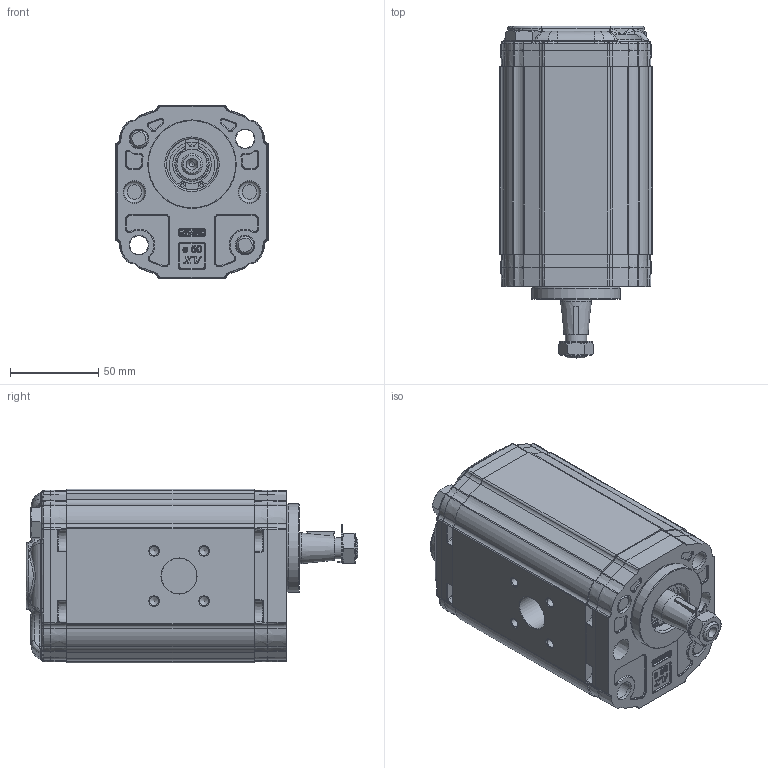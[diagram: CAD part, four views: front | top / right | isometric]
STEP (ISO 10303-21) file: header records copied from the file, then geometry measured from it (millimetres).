
FILE_DESCRIPTION(/* description */ ('Unknown'),/* implementation_level */ '2;1');
FILE_NAME(/* name */ 'X2R6307FSSF',/* time_stamp */ '2026-06-03T18:21:20+02:00',/* author */ ('Unknown'),/* organization */ ('Unknown'),/* preprocessor_version */ 'ST-DEVELOPER v16.7',/* originating_system */ 'Solid Edge',/* authorisation */ 'Unknown');
FILE_SCHEMA (('AUTOMOTIVE_DESIGN {1 0 10303 214 3 1 1}'));
Products named in the file (5): X2R6307FSSF; X2R07; 2F; X2SSH106; XR210-F
Assembly tree (4 placements, depth 2):
  X2R6307FSSF
    X2R07
    2F
    X2SSH106
    XR210-F
Bounding box: 86 x 187.65 x 98 mm (x, y, z)
Volume: 1039797.6 mm3; surface area: 126576.8 mm2
Topology: 4 solids, 8 shells, 2512 faces, 6129 edges, 3698 vertices
Faces by surface type: cylinder 717, bspline 627, plane 620, cone 287, torus 201, sphere 60
Full cylindrical faces by diameter (mm): 2 x2, 5 x8, 10 x6, 10.5 x8, 11 x2, 12 x2, 12.5 x1, 16 x2, 17.42 x1, 17.48 x2, 18.724 x1, 20 x2, 20.595 x1, 21.741 x1, 25 x1, 25.834 x1, 28.56 x1, 28.57 x1, 28.8 x1, 30.5 x1, 50 x1
Entity records: 116477 total; most frequent: CARTESIAN_POINT 45586, ORIENTED_EDGE 11766, DIRECTION 9661, EDGE_CURVE 5883, AXIS2_PLACEMENT_3D 3813, VERTEX_POINT 3640, FACE_BOUND 2789, EDGE_LOOP 2779
